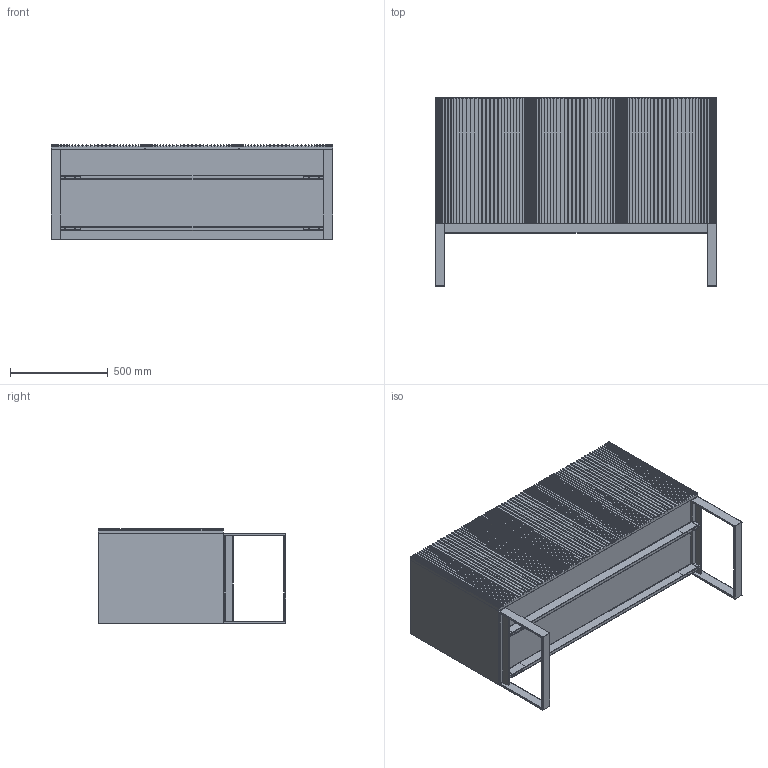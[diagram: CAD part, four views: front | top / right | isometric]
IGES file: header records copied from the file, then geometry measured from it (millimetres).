
Start section: SolidWorks IGES file using analytic representation for surfaces
Global section: file name: C:\Users\Matteo\Desktop\_Horm\_carlos\_collezione carlos\_IGS CARLOS\CARLOS cm 144X49X96H.IGS; native system: SolidWorks 2010; preprocessor: SolidWorks 2010; author: Matteo; date: 160224.161744; units: millimetre
Bounding box: 1440 x 960 x 484 mm (x, y, z)
Surface area: 8952379.2 mm2 (no closed solid volume)
Topology: 0 solids, 0 shells, 1340 faces, 10344 edges, 10336 vertices
Faces by surface type: bspline 1082, revolution 258
